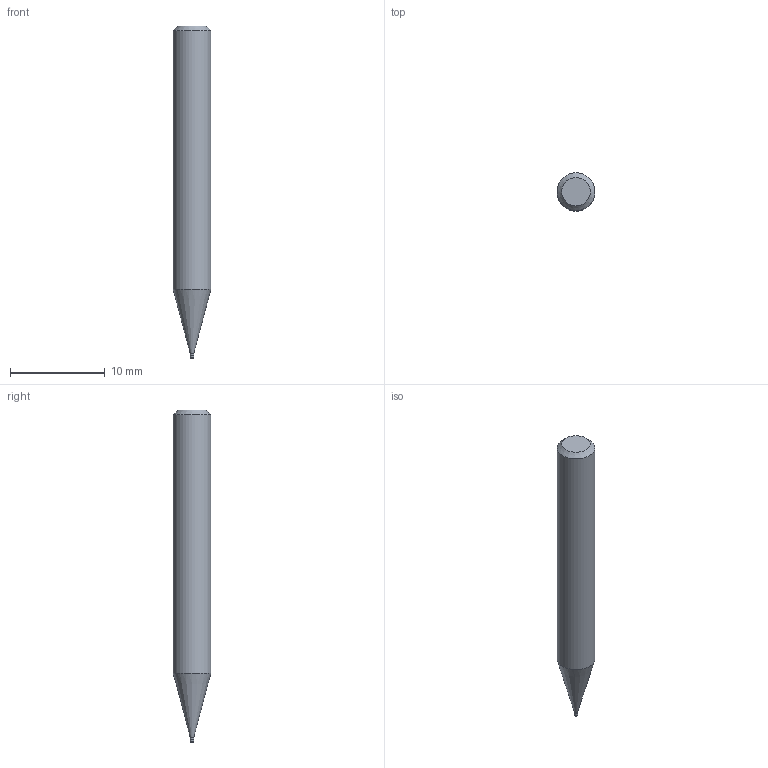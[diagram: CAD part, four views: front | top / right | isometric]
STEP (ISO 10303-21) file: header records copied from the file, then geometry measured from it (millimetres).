
FILE_DESCRIPTION((''),'2;1');
FILE_NAME('C:\Users\nsx150\AppData\Local\Temp\Mastercam 2021\80JYEHYUML\TEMP.step','2022-03-29T14:34:58',(''),(''),'STEP Write','Mastercam 2021 ... CNC Software, Inc.','');
FILE_SCHEMA(('AUTOMOTIVE_DESIGN'));
Length unit declared in the file: millimetre
Products named in the file (1): None
Bounding box: 4 x 4 x 35 mm (x, y, z)
Volume: 378.3 mm3; surface area: 406.1 mm2
Topology: 2 solids, 2 shells, 10 faces, 14 edges, 8 vertices
Faces by surface type: plane 4, cylinder 3, cone 2, torus 1
Full cylindrical faces by diameter (mm): 0.37 x1, 0.4 x1, 4 x1
Entity records: 232 total; most frequent: DIRECTION 40, CARTESIAN_POINT 28, AXIS2_PLACEMENT_3D 20, ORIENTED_EDGE 16, EDGE_LOOP 16, STYLED_ITEM 13, ADVANCED_FACE 10, FACE_BOUND 10
